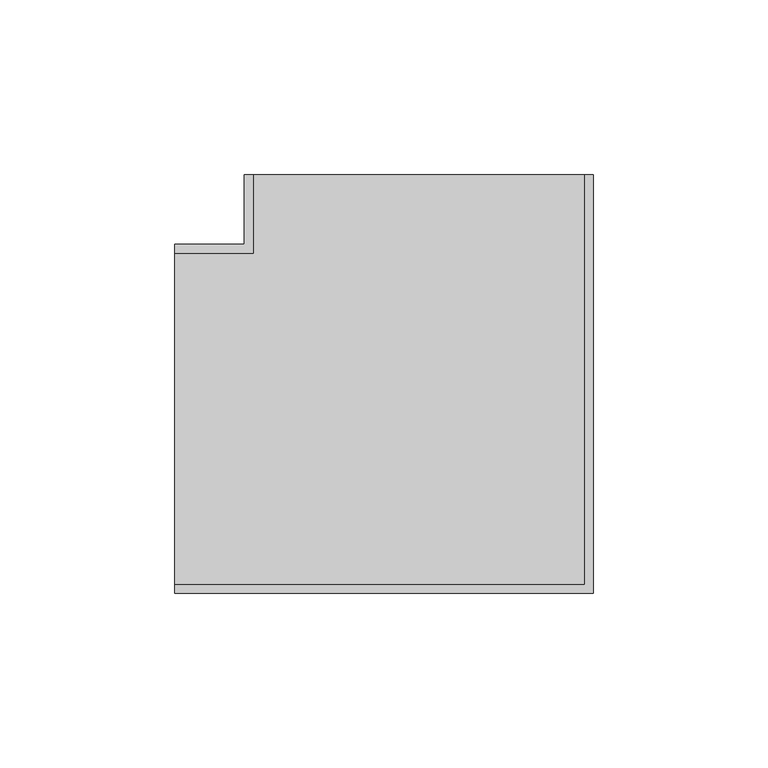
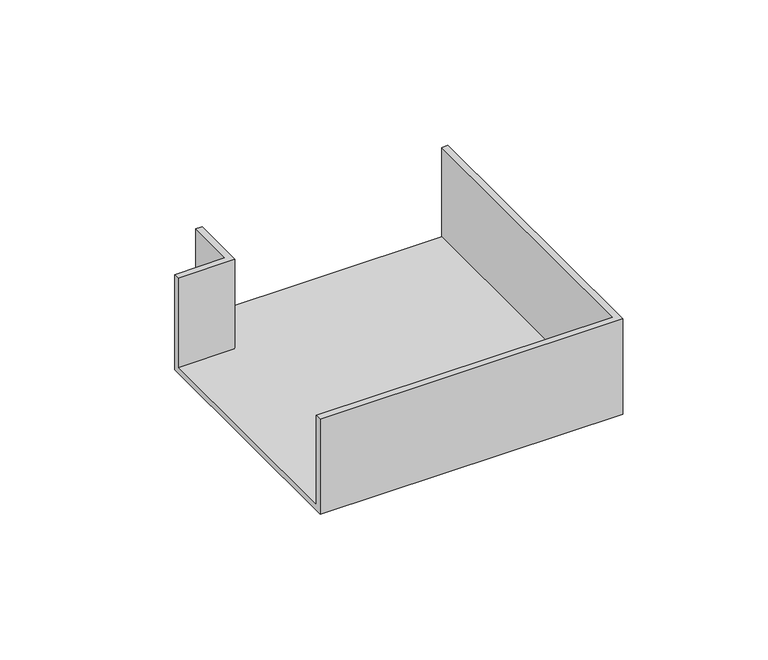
"""IFC4 building model written with IfcOpenShell, lengths in millimetres: cable carrier fitting geometry, КНС_УголПлоский NPAN_ILC_DKC : Угол плоский NPAN_DKC."""

from ifc_helpers import new_model, si_unit, origin, place, context, project, spatial, faceted_brep, source, transform, mapped, element, save


def cable_carrier_fitting_613d6a40(model_context):
    return source(origin(), model_context, "Body", "Brep", [
        faceted_brep([(-70.0, 50.0, -20.0), (-70.0, -50.0, -20.0), (-70.0, -50.0, 20.0), (-70.0, -47.5, 20.0), (-70.0, -47.5, -17.5), (-70.0, 47.5, -17.5), (-70.0, 47.5, 20.0), (-70.0, 50.0, 20.0), (-50.0, 50.0, -20.0), (-50.0, 70.0, -20.0), (50.0, 70.0, -20.0), (50.0, -50.0, -20.0), (50.0, -50.0, 20.0), (50.0, 70.0, 20.0), (47.5, 70.0, 20.0), (47.5, -47.5, 20.0), (47.5, -47.5, -17.5), (47.5, 70.0, -17.5), (-47.5, 70.0, -17.5), (-47.5, 47.5, -17.5), (-47.5, 47.5, 20.0), (-47.5, 70.0, 20.0), (-50.0, 70.0, 20.0), (-50.0, 50.0, 20.0)], [[[0, 1, 2, 3, 4, 5, 6, 7]], [[1, 0, 8, 9, 10, 11]], [[2, 1, 11, 12]], [[3, 2, 12, 13, 14, 15]], [[4, 3, 15, 16]], [[5, 4, 16, 17, 18, 19]], [[6, 5, 19, 20]], [[7, 6, 20, 21, 22, 23]], [[0, 7, 23, 8]], [[9, 22, 21, 18, 17, 14, 13, 10]], [[12, 11, 10, 13]], [[16, 15, 14, 17]], [[20, 19, 18, 21]], [[8, 23, 22, 9]]]),
    ])


if __name__ == "__main__":
    model = new_model("IFC4")
    model_context = context("Model", 3, world=origin())
    ifc_project = project(units=[si_unit("LENGTHUNIT", "METRE", prefix="MILLI")], contexts=[model_context])
    site = spatial("IfcSite", under=ifc_project)
    building = spatial("IfcBuilding", under=site)
    placement = place(None, origin())
    cable_carrier_fitting_shape = cable_carrier_fitting_613d6a40(model_context)
    element("IfcCableCarrierFitting", 1, ObjectType="КНС_УголПлоский NPAN_ILC_DKC : Угол плоский NPAN_DKC", at=placement, inside=building, context=model_context, shape_type="MappedRepresentation", body=[
        mapped(cable_carrier_fitting_shape, transform((0.0, 0.0, 0.0), x_axis=(1.0, 0.0, 0.0), y_axis=(0.0, 1.0, 0.0), z_axis=(0.0, 0.0, 1.0))),
    ])
    save(model, "model.ifc")
